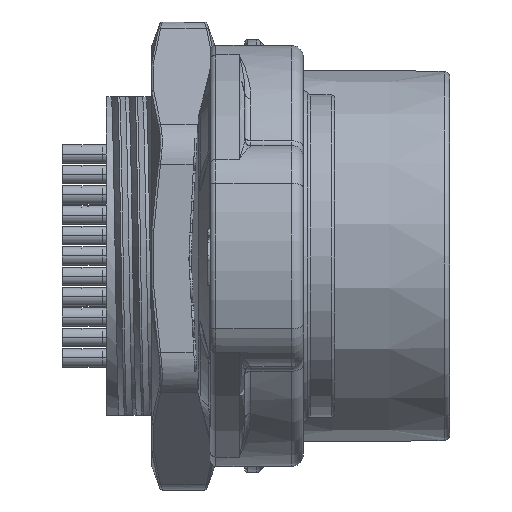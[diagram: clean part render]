
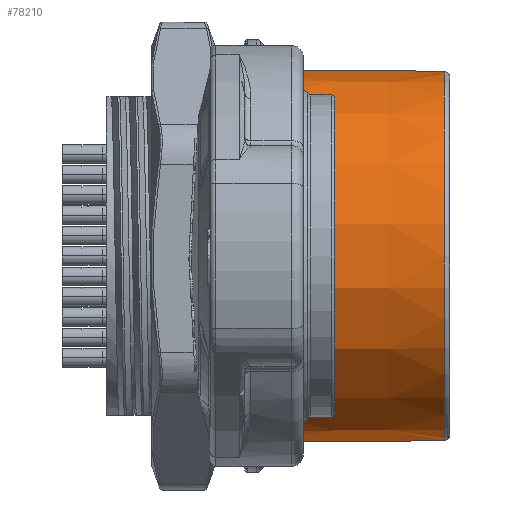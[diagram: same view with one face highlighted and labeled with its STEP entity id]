
A CAD part, front view. The second image highlights one B-rep face of the part: STEP entity #78210.
In plain terms, the highlighted conical face has half-angle 0.5 degrees and reference radius 16 mm.
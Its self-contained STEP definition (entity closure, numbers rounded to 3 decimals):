
#183 = VERTEX_POINT ( 'NONE', #80090 ) ;
#1200 = DIRECTION ( 'NONE',  ( -1., 0., 0.009 ) ) ;
#3383 = DIRECTION ( 'NONE',  ( 0., 0., -1. ) ) ;
#3848 = DIRECTION ( 'NONE',  ( 0., 0., 1. ) ) ;
#4752 = VERTEX_POINT ( 'NONE', #57996 ) ;
#17772 = EDGE_LOOP ( 'NONE', ( #83364, #74773, #67720, #57795 ) ) ;
#20899 = VERTEX_POINT ( 'NONE', #84986 ) ;
#23558 = CARTESIAN_POINT ( 'NONE',  ( -15.1, 0., -16. ) ) ;
#25788 = CIRCLE ( 'NONE', #62800, 15.873 ) ;
#28497 = EDGE_CURVE ( 'NONE', #4752, #20899, #68440, .T. ) ;
#28516 = CARTESIAN_POINT ( 'NONE',  ( -15.1, 0., 16. ) ) ;
#29316 = VECTOR ( 'NONE', #1200, 1000. ) ;
#30259 = DIRECTION ( 'NONE',  ( -1., 0., 0. ) ) ;
#35062 = EDGE_CURVE ( 'NONE', #183, #47121, #25788, .T. ) ;
#36551 = AXIS2_PLACEMENT_3D ( 'NONE', #44659, #88632, #3383 ) ;
#42451 = LINE ( 'NONE', #28516, #29316 ) ;
#44659 = CARTESIAN_POINT ( 'NONE',  ( -15.1, 0., 0. ) ) ;
#47121 = VERTEX_POINT ( 'NONE', #54786 ) ;
#50521 = VECTOR ( 'NONE', #72237, 1000. ) ;
#52992 = FACE_OUTER_BOUND ( 'NONE', #17772, .T. ) ;
#54786 = CARTESIAN_POINT ( 'NONE',  ( -0.496, 0., 15.873 ) ) ;
#57795 = ORIENTED_EDGE ( 'NONE', *, *, #68786, .F. ) ;
#57996 = CARTESIAN_POINT ( 'NONE',  ( -14.803, 0., 15.997 ) ) ;
#61319 = CARTESIAN_POINT ( 'NONE',  ( -14.803, 0., 0. ) ) ;
#62580 = AXIS2_PLACEMENT_3D ( 'NONE', #61319, #89077, #3848 ) ;
#62800 = AXIS2_PLACEMENT_3D ( 'NONE', #65502, #30259, #67339 ) ;
#65502 = CARTESIAN_POINT ( 'NONE',  ( -0.496, 0., 0. ) ) ;
#67339 = DIRECTION ( 'NONE',  ( 0., 0., -1. ) ) ;
#67662 = CONICAL_SURFACE ( 'NONE', #36551, 16., 0.009 ) ;
#67720 = ORIENTED_EDGE ( 'NONE', *, *, #28497, .T. ) ;
#68440 = CIRCLE ( 'NONE', #62580, 15.997 ) ;
#68786 = EDGE_CURVE ( 'NONE', #183, #20899, #80570, .T. ) ;
#72237 = DIRECTION ( 'NONE',  ( -1., 0., -0.009 ) ) ;
#74773 = ORIENTED_EDGE ( 'NONE', *, *, #79859, .T. ) ;
#78210 = ADVANCED_FACE ( 'NONE', ( #52992 ), #67662, .T. ) ;
#79859 = EDGE_CURVE ( 'NONE', #47121, #4752, #42451, .T. ) ;
#80090 = CARTESIAN_POINT ( 'NONE',  ( -0.496, 0., -15.873 ) ) ;
#80570 = LINE ( 'NONE', #23558, #50521 ) ;
#83364 = ORIENTED_EDGE ( 'NONE', *, *, #35062, .T. ) ;
#84986 = CARTESIAN_POINT ( 'NONE',  ( -14.803, 0., -15.997 ) ) ;
#88632 = DIRECTION ( 'NONE',  ( -1., 0., 0. ) ) ;
#89077 = DIRECTION ( 'NONE',  ( 1., 0., 0. ) ) ;
